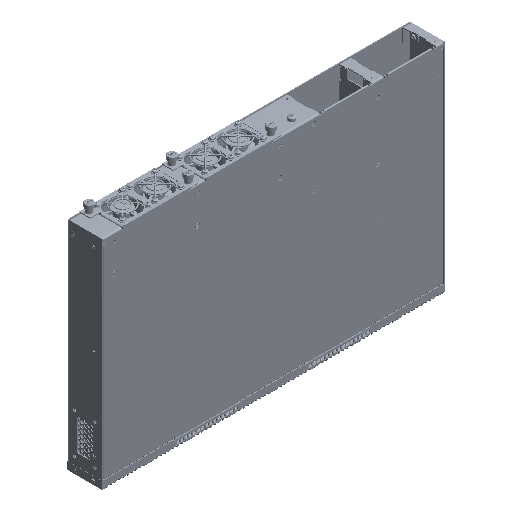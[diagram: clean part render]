
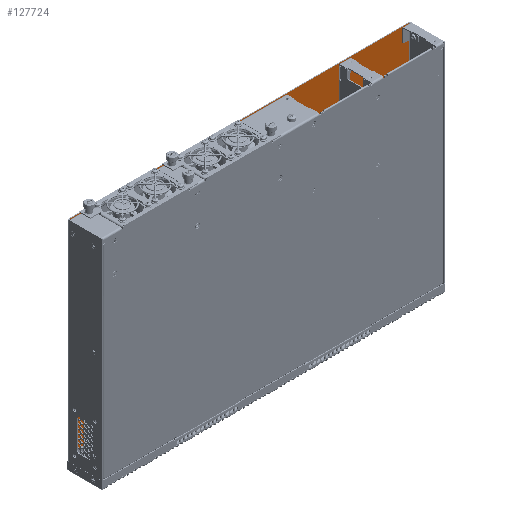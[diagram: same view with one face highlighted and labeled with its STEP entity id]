
A CAD part, isometric view. The second image highlights one B-rep face of the part: STEP entity #127724.
In plain terms, the highlighted planar face has unit normal (0, -1, 0).
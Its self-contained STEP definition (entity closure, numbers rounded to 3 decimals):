
#17066 = CARTESIAN_POINT ( 'NONE',  ( -206.365, -0.975, 221. ) ) ;
#20445 = CIRCLE ( 'NONE', #866464, 1.6 ) ;
#36553 = DIRECTION ( 'NONE',  ( 0., 1., 0. ) ) ;
#37295 = EDGE_CURVE ( 'NONE', #1039908, #688236, #569264, .T. ) ;
#47383 = DIRECTION ( 'NONE',  ( 0., 1., 0. ) ) ;
#53571 = CARTESIAN_POINT ( 'NONE',  ( 15.435, -0.975, 188. ) ) ;
#53756 = ORIENTED_EDGE ( 'NONE', *, *, #37295, .F. ) ;
#54112 = CARTESIAN_POINT ( 'NONE',  ( -206.365, -0.975, -42. ) ) ;
#57149 = VECTOR ( 'NONE', #1230169, 1000. ) ;
#57759 = VERTEX_POINT ( 'NONE', #17066 ) ;
#58214 = AXIS2_PLACEMENT_3D ( 'NONE', #143609, #850083, #659740 ) ;
#95269 = FACE_OUTER_BOUND ( 'NONE', #1164335, .T. ) ;
#96433 = CARTESIAN_POINT ( 'NONE',  ( 219.635, -0.975, 221. ) ) ;
#103911 = EDGE_CURVE ( 'NONE', #603870, #359762, #1343404, .T. ) ;
#105176 = EDGE_CURVE ( 'NONE', #1007723, #225812, #370524, .T. ) ;
#115186 = DIRECTION ( 'NONE',  ( 0., 0., 1. ) ) ;
#118742 = DIRECTION ( 'NONE',  ( 0., 0., 1. ) ) ;
#123255 = CARTESIAN_POINT ( 'NONE',  ( 219.635, -0.975, 221. ) ) ;
#127724 = ADVANCED_FACE ( 'NONE', ( #1235711, #203876, #1222288, #618122, #400918, #95269 ), #292340, .F. ) ;
#143609 = CARTESIAN_POINT ( 'NONE',  ( 57.935, -0.975, 195.1 ) ) ;
#159835 = CIRCLE ( 'NONE', #376076, 1.6 ) ;
#160918 = LINE ( 'NONE', #785590, #1252348 ) ;
#167900 = EDGE_CURVE ( 'NONE', #428876, #290856, #1121279, .T. ) ;
#192173 = CIRCLE ( 'NONE', #560743, 1.6 ) ;
#192298 = EDGE_CURVE ( 'NONE', #290856, #428876, #583433, .T. ) ;
#195301 = EDGE_CURVE ( 'NONE', #663963, #1039908, #714400, .T. ) ;
#203876 = FACE_BOUND ( 'NONE', #556791, .T. ) ;
#225812 = VERTEX_POINT ( 'NONE', #53571 ) ;
#237826 = DIRECTION ( 'NONE',  ( 0., 0., 1. ) ) ;
#244861 = CARTESIAN_POINT ( 'NONE',  ( -88.565, -0.975, 186.4 ) ) ;
#259123 = AXIS2_PLACEMENT_3D ( 'NONE', #1151915, #1050011, #534219 ) ;
#264654 = DIRECTION ( 'NONE',  ( 0., 1., 0. ) ) ;
#275022 = AXIS2_PLACEMENT_3D ( 'NONE', #1025353, #624829, #726623 ) ;
#290856 = VERTEX_POINT ( 'NONE', #1131697 ) ;
#292340 = PLANE ( 'NONE',  #275022 ) ;
#299793 = DIRECTION ( 'NONE',  ( 0., 0., 1. ) ) ;
#313449 = EDGE_CURVE ( 'NONE', #225812, #1007723, #192173, .T. ) ;
#317142 = EDGE_CURVE ( 'NONE', #981305, #415244, #1303536, .T. ) ;
#325530 = ORIENTED_EDGE ( 'NONE', *, *, #659543, .T. ) ;
#345847 = AXIS2_PLACEMENT_3D ( 'NONE', #244861, #659014, #1072971 ) ;
#346410 = CARTESIAN_POINT ( 'NONE',  ( 138.135, -0.975, 195. ) ) ;
#359762 = VERTEX_POINT ( 'NONE', #686414 ) ;
#367971 = ORIENTED_EDGE ( 'NONE', *, *, #195301, .F. ) ;
#370524 = CIRCLE ( 'NONE', #952961, 1.6 ) ;
#376076 = AXIS2_PLACEMENT_3D ( 'NONE', #1321440, #264654, #767253 ) ;
#400918 = FACE_BOUND ( 'NONE', #1092906, .T. ) ;
#409168 = ORIENTED_EDGE ( 'NONE', *, *, #105176, .T. ) ;
#415244 = VERTEX_POINT ( 'NONE', #715509 ) ;
#420848 = DIRECTION ( 'NONE',  ( 0., 1., 0. ) ) ;
#425645 = CIRCLE ( 'NONE', #1119351, 1.6 ) ;
#428876 = VERTEX_POINT ( 'NONE', #906973 ) ;
#444217 = CARTESIAN_POINT ( 'NONE',  ( 15.435, -0.975, 186.4 ) ) ;
#450749 = CARTESIAN_POINT ( 'NONE',  ( 57.935, -0.975, 195.1 ) ) ;
#453106 = ORIENTED_EDGE ( 'NONE', *, *, #317142, .T. ) ;
#483491 = CARTESIAN_POINT ( 'NONE',  ( -192.565, -0.975, 188. ) ) ;
#520652 = VECTOR ( 'NONE', #1105058, 1000. ) ;
#526338 = LINE ( 'NONE', #1048842, #1031125 ) ;
#534219 = DIRECTION ( 'NONE',  ( 0., 0., 1. ) ) ;
#556791 = EDGE_LOOP ( 'NONE', ( #833929, #1290454 ) ) ;
#560743 = AXIS2_PLACEMENT_3D ( 'NONE', #444217, #749803, #1055233 ) ;
#569264 = LINE ( 'NONE', #894756, #520652 ) ;
#577198 = DIRECTION ( 'NONE',  ( 0., 1., 0. ) ) ;
#583433 = CIRCLE ( 'NONE', #1190857, 1.6 ) ;
#597290 = CARTESIAN_POINT ( 'NONE',  ( -192.565, -0.975, 186.4 ) ) ;
#603870 = VERTEX_POINT ( 'NONE', #483491 ) ;
#611220 = CARTESIAN_POINT ( 'NONE',  ( 15.435, -0.975, 186.4 ) ) ;
#618122 = FACE_BOUND ( 'NONE', #703491, .T. ) ;
#624829 = DIRECTION ( 'NONE',  ( 0., 1., 0. ) ) ;
#625585 = DIRECTION ( 'NONE',  ( 0., 1., 0. ) ) ;
#659014 = DIRECTION ( 'NONE',  ( 0., 1., 0. ) ) ;
#659543 = EDGE_CURVE ( 'NONE', #881075, #1274015, #1060976, .T. ) ;
#659740 = DIRECTION ( 'NONE',  ( 0., 0., 1. ) ) ;
#663963 = VERTEX_POINT ( 'NONE', #123255 ) ;
#686414 = CARTESIAN_POINT ( 'NONE',  ( -192.565, -0.975, 184.8 ) ) ;
#688236 = VERTEX_POINT ( 'NONE', #54112 ) ;
#703491 = EDGE_LOOP ( 'NONE', ( #325530, #951021 ) ) ;
#714400 = LINE ( 'NONE', #96433, #57149 ) ;
#715509 = CARTESIAN_POINT ( 'NONE',  ( 138.135, -0.975, 196.6 ) ) ;
#718444 = AXIS2_PLACEMENT_3D ( 'NONE', #346410, #47383, #237826 ) ;
#726623 = DIRECTION ( 'NONE',  ( 0., 0., 1. ) ) ;
#749803 = DIRECTION ( 'NONE',  ( 0., 1., 0. ) ) ;
#761416 = CARTESIAN_POINT ( 'NONE',  ( 138.135, -0.975, 193.4 ) ) ;
#767253 = DIRECTION ( 'NONE',  ( 0., 0., 1. ) ) ;
#785590 = CARTESIAN_POINT ( 'NONE',  ( -208.365, -0.975, 221. ) ) ;
#833929 = ORIENTED_EDGE ( 'NONE', *, *, #192298, .T. ) ;
#850083 = DIRECTION ( 'NONE',  ( 0., 1., 0. ) ) ;
#859626 = ORIENTED_EDGE ( 'NONE', *, *, #1223128, .T. ) ;
#866464 = AXIS2_PLACEMENT_3D ( 'NONE', #1338213, #625585, #299793 ) ;
#881075 = VERTEX_POINT ( 'NONE', #1147883 ) ;
#894756 = CARTESIAN_POINT ( 'NONE',  ( -208.365, -0.975, -42. ) ) ;
#906973 = CARTESIAN_POINT ( 'NONE',  ( 57.935, -0.975, 193.5 ) ) ;
#944701 = EDGE_CURVE ( 'NONE', #359762, #603870, #425645, .T. ) ;
#951021 = ORIENTED_EDGE ( 'NONE', *, *, #1082722, .T. ) ;
#952961 = AXIS2_PLACEMENT_3D ( 'NONE', #611220, #420848, #115186 ) ;
#969170 = DIRECTION ( 'NONE',  ( 1., 0., 0. ) ) ;
#980392 = ORIENTED_EDGE ( 'NONE', *, *, #313449, .T. ) ;
#981305 = VERTEX_POINT ( 'NONE', #761416 ) ;
#997876 = DIRECTION ( 'NONE',  ( 0., 0., 1. ) ) ;
#1007723 = VERTEX_POINT ( 'NONE', #1057563 ) ;
#1025353 = CARTESIAN_POINT ( 'NONE',  ( -208.365, -0.975, 221. ) ) ;
#1031125 = VECTOR ( 'NONE', #118742, 1000. ) ;
#1034531 = CARTESIAN_POINT ( 'NONE',  ( -88.565, -0.975, 184.8 ) ) ;
#1039908 = VERTEX_POINT ( 'NONE', #1171606 ) ;
#1048842 = CARTESIAN_POINT ( 'NONE',  ( -206.365, -0.975, -42. ) ) ;
#1050011 = DIRECTION ( 'NONE',  ( 0., 1., 0. ) ) ;
#1055233 = DIRECTION ( 'NONE',  ( 0., 0., 1. ) ) ;
#1056633 = EDGE_LOOP ( 'NONE', ( #980392, #409168 ) ) ;
#1057563 = CARTESIAN_POINT ( 'NONE',  ( 15.435, -0.975, 184.8 ) ) ;
#1060976 = CIRCLE ( 'NONE', #345847, 1.6 ) ;
#1072971 = DIRECTION ( 'NONE',  ( 0., 0., 1. ) ) ;
#1082722 = EDGE_CURVE ( 'NONE', #1274015, #881075, #159835, .T. ) ;
#1092906 = EDGE_LOOP ( 'NONE', ( #1333854, #1112634 ) ) ;
#1105058 = DIRECTION ( 'NONE',  ( -1., 0., 0. ) ) ;
#1112634 = ORIENTED_EDGE ( 'NONE', *, *, #944701, .T. ) ;
#1119351 = AXIS2_PLACEMENT_3D ( 'NONE', #597290, #577198, #997876 ) ;
#1121279 = CIRCLE ( 'NONE', #58214, 1.6 ) ;
#1131697 = CARTESIAN_POINT ( 'NONE',  ( 57.935, -0.975, 196.7 ) ) ;
#1132497 = EDGE_CURVE ( 'NONE', #688236, #57759, #526338, .T. ) ;
#1147883 = CARTESIAN_POINT ( 'NONE',  ( -88.565, -0.975, 188. ) ) ;
#1151915 = CARTESIAN_POINT ( 'NONE',  ( -192.565, -0.975, 186.4 ) ) ;
#1164335 = EDGE_LOOP ( 'NONE', ( #367971, #1203779, #1284779, #53756 ) ) ;
#1171606 = CARTESIAN_POINT ( 'NONE',  ( 219.635, -0.975, -42. ) ) ;
#1177034 = DIRECTION ( 'NONE',  ( 0., 0., 1. ) ) ;
#1190857 = AXIS2_PLACEMENT_3D ( 'NONE', #450749, #36553, #1177034 ) ;
#1203779 = ORIENTED_EDGE ( 'NONE', *, *, #1287177, .F. ) ;
#1222288 = FACE_BOUND ( 'NONE', #1056633, .T. ) ;
#1223128 = EDGE_CURVE ( 'NONE', #415244, #981305, #20445, .T. ) ;
#1230169 = DIRECTION ( 'NONE',  ( 0., 0., -1. ) ) ;
#1235711 = FACE_BOUND ( 'NONE', #1288695, .T. ) ;
#1252348 = VECTOR ( 'NONE', #969170, 1000. ) ;
#1274015 = VERTEX_POINT ( 'NONE', #1034531 ) ;
#1284779 = ORIENTED_EDGE ( 'NONE', *, *, #1132497, .F. ) ;
#1287177 = EDGE_CURVE ( 'NONE', #57759, #663963, #160918, .T. ) ;
#1288695 = EDGE_LOOP ( 'NONE', ( #859626, #453106 ) ) ;
#1290454 = ORIENTED_EDGE ( 'NONE', *, *, #167900, .T. ) ;
#1303536 = CIRCLE ( 'NONE', #718444, 1.6 ) ;
#1321440 = CARTESIAN_POINT ( 'NONE',  ( -88.565, -0.975, 186.4 ) ) ;
#1333854 = ORIENTED_EDGE ( 'NONE', *, *, #103911, .T. ) ;
#1338213 = CARTESIAN_POINT ( 'NONE',  ( 138.135, -0.975, 195. ) ) ;
#1343404 = CIRCLE ( 'NONE', #259123, 1.6 ) ;
